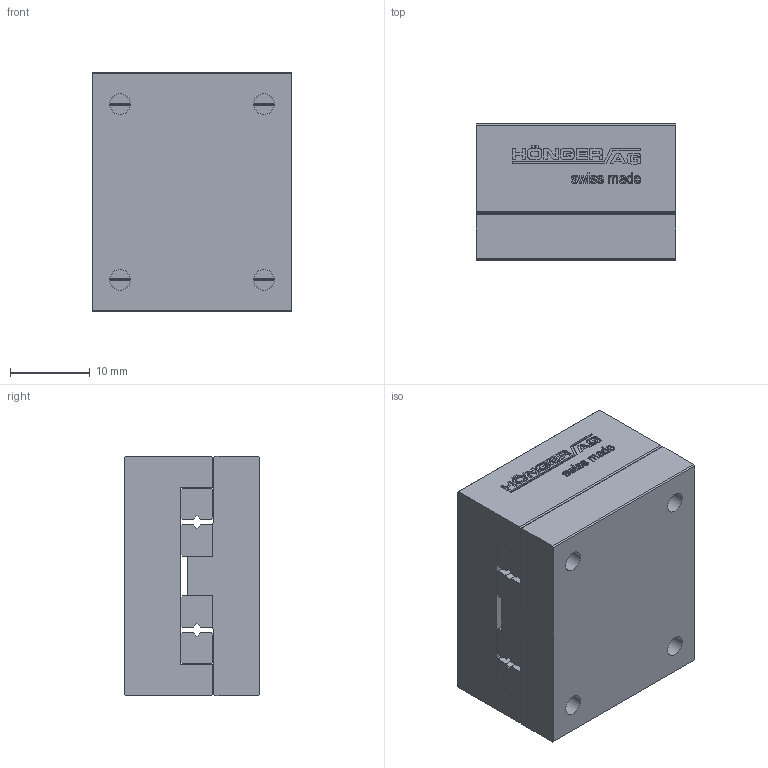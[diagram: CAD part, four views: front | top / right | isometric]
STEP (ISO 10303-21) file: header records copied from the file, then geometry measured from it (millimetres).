
FILE_DESCRIPTION(/* description */ ('STEP AP214'),/* implementation_level */ '2;1');
FILE_NAME(/* name */ 'NK 1-25-B(0)',/* time_stamp */ '2025-04-22T17:46:45+02:00',/* author */ ('License CC BY-ND 4.0'),/* organization */ ('CADENAS'),/* preprocessor_version */ 'ST-DEVELOPER v19.3',/* originating_system */ 'PARTsolutions',/* authorisation */ ' ');
FILE_SCHEMA (('AUTOMOTIVE_DESIGN {1 0 10303 214 3 1 1}'));
Length unit declared in the file: millimetre
Products named in the file (3): NK 1-25-B(0); NK 1-25-B_1; NK 1-25-B_2
Assembly tree (2 placements, depth 2):
  NK 1-25-B(0)
    NK 1-25-B_1
    NK 1-25-B_2
Bounding box: 25 x 17 x 30 mm (x, y, z)
Volume: 12151.3 mm3; surface area: 6395.2 mm2
Topology: 2 solids, 2 shells, 591 faces, 1636 edges, 1084 vertices
Faces by surface type: cylinder 302, plane 285, cone 4
Full cylindrical faces by diameter (mm): 1.567 x2, 2.6 x4, 4.1 x4
Entity records: 19067 total; most frequent: DIRECTION 3418, CARTESIAN_POINT 3300, ORIENTED_EDGE 3244, EDGE_CURVE 1622, AXIS2_PLACEMENT_3D 1202, VERTEX_POINT 1084, LINE 1014, VECTOR 1014
